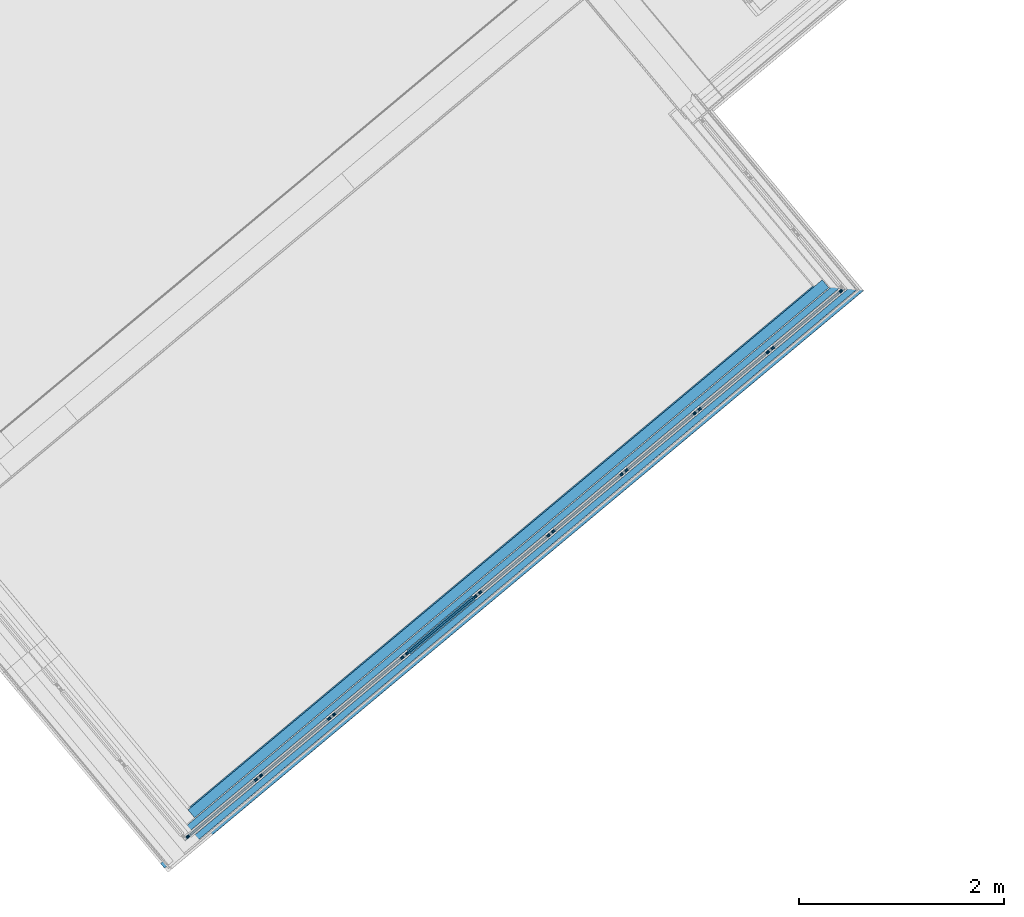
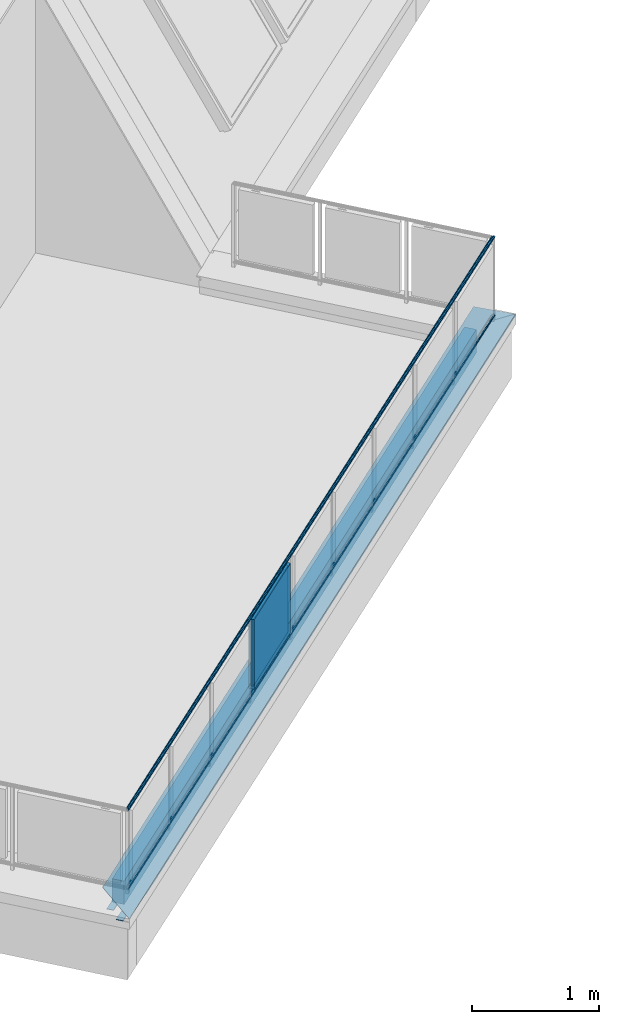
# One storey, part 17 of 58: 8 building element parts, 2 elements without a shape of their own.
"""IFC4 building model written with IfcOpenShell, lengths in metres."""

from ifc_helpers import new_model, entity, si_unit, converted_unit, derived_unit, direction, frame, origin_with_axes, place, context, subcontext, project, spatial, polygons, material, type_object, element, aggregate, save


model = new_model("IFC4")

# Units and contexts
model_context = context("Model", 3, precision=1e-05, world=origin_with_axes(), true_north=direction((0.0, 1.0)))
body_context = subcontext(model_context, "Body", "Model", "MODEL_VIEW")
ifc_project = project(units=[si_unit("LENGTHUNIT", "METRE"), si_unit("AREAUNIT", "SQUARE_METRE"), si_unit("VOLUMEUNIT", "CUBIC_METRE"), converted_unit("PLANEANGLEUNIT", "DEGREE", entity("IfcPlaneAngleMeasure", 0.0174532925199), si_unit("PLANEANGLEUNIT", "RADIAN"), dimensions=[0, 0, 0, 0, 0, 0, 0]), converted_unit("TIMEUNIT", "Year", entity("IfcTimeMeasure", 31556926.0), si_unit("TIMEUNIT", "SECOND"), dimensions=[0, 0, 1, 0, 0, 0, 0]), si_unit("MASSUNIT", "GRAM", prefix="KILO"), si_unit("THERMODYNAMICTEMPERATUREUNIT", "DEGREE_CELSIUS"), si_unit("LUMINOUSINTENSITYUNIT", "LUMEN"), si_unit("ENERGYUNIT", "JOULE", prefix="MEGA"), derived_unit("THERMALCONDUCTANCEUNIT", [(si_unit("POWERUNIT", "WATT"), 1), (si_unit("LENGTHUNIT", "METRE"), -1), (si_unit("THERMODYNAMICTEMPERATUREUNIT", "KELVIN"), -1)]), derived_unit("SPECIFICHEATCAPACITYUNIT", [(si_unit("ENERGYUNIT", "JOULE"), 1), (si_unit("MASSUNIT", "GRAM", prefix="KILO"), -1), (si_unit("THERMODYNAMICTEMPERATUREUNIT", "KELVIN"), -1)]), derived_unit("MASSDENSITYUNIT", [(si_unit("MASSUNIT", "GRAM", prefix="KILO"), 1), (si_unit("VOLUMEUNIT", "CUBIC_METRE"), -1)])], contexts=[model_context])

# Site, building, storey
site_placement = place(None, frame((-0.00153261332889, -0.00661245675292, 0.0), z_axis=(0.0, 0.0, 1.0), x_axis=(1.0, 0.0, 0.0)))
site = spatial("IfcSite", under=ifc_project, at=site_placement, Name="Site", CompositionType="ELEMENT")
building_placement = place(site_placement, origin_with_axes())
building = spatial("IfcBuilding", under=site, at=building_placement, Name="Building", CompositionType="ELEMENT")
storey_placement = place(building_placement, frame((0.0, 0.0, 5.7), z_axis=(0.0, 0.0, 1.0), x_axis=(1.0, 0.0, 0.0)))
storey = spatial("IfcBuildingStorey", under=building, at=storey_placement, Name="DG1", CompositionType="ELEMENT", Elevation=5.7)

# Wall, building element parts
wall_type = type_object("IfcWallType", Name="Bauteil - Attika Balkon 356 x 610", PredefinedType="NOTDEFINED")
wall_placement = place(storey_placement, frame((0.456856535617, 6.75344693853, -0.2), z_axis=(0.0, 0.0, 1.0), x_axis=(0.767288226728, 0.641302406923, 0.0)))
wall = element("IfcWall", 1, at=wall_placement, inside=storey, type_object=wall_type, Name="Wand-003", PredefinedType="NOTDEFINED")
ifc_material_1 = material(Name="Holzwerkstoff")
building_element_part_1_placement = place(wall_placement, origin_with_axes())
building_element_part_1 = element("IfcBuildingElementPart", 2, at=building_element_part_1_placement, material=ifc_material_1, Name="Holzwerkstoff", PredefinedType="NOTDEFINED", context=body_context, shape_type="Tessellation", body=[
    polygons([(0.330547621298, -0.189984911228, 0.586106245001), (0.330501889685, -0.13012497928, 0.584015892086), (8.50878371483, -0.130124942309, 0.584015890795), (8.56867877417, -0.189984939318, 0.586106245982), (0.330612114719, 0.11183400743, 0.584015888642), (0.330685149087, 0.111907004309, 0.586106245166), (0.330456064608, -0.0701429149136, 0.581921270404), (8.44876652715, -0.0701429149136, 0.581921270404), (8.50864209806, 0.111834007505, 0.584015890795), (8.56850199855, 0.111907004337, 0.586106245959), (0.330585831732, -0.23999998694, 0.587852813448), (8.61872305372, -0.239999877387, 0.587852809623), (0.330538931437, 0.111760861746, 0.581921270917), (0.330749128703, 0.111970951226, 0.587937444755), (0.330588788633, -0.239997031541, 0.587937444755), (0.112278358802, 0.112247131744, 0.595846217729), (8.61823774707, 0.112247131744, 0.595846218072), (8.61851704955, 0.111967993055, 0.587852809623), (8.44866006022, 0.111760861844, 0.581921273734), (8.3885498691, 0.111687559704, 0.579822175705), (8.26697794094, 0.111539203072, 0.575576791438), (0.3303172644, 0.111539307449, 0.575576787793), (0.330331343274, 0.11155337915, 0.57597974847), (0.330465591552, 0.111687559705, 0.57982217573), (0.330410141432, -0.0100326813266, 0.579822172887), (8.38862111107, -0.0100326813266, 0.579822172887), (-0.239385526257, -0.239276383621, 0.608570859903), (0.112118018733, -0.239720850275, 0.595846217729), (8.61844375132, -0.239720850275, 0.595846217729), (8.61799913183, -0.23927649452, 0.608570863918), (0.330326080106, 0.100000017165, 0.57597974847)], [[[1, 2, 3, 4]], [[5, 2, 1, 6]], [[2, 7, 8, 3]], [[9, 10, 4, 3]], [[11, 1, 4, 12]], [[7, 2, 5, 13]], [[14, 6, 1, 11, 15]], [[14, 16, 17, 18, 10, 9, 19, 20, 21, 22, 23, 24, 13, 5, 6]], [[7, 25, 26, 8]], [[8, 19, 9, 3]], [[10, 18, 12, 4]], [[27, 28, 15, 11, 12, 29, 30]], [[25, 7, 13, 24]], [[28, 16, 14, 15]], [[16, 27, 30, 17]], [[18, 17, 29, 12]], [[8, 26, 20, 19]], [[26, 21, 20]], [[31, 22, 21, 26, 25]], [[22, 31, 23]], [[25, 24, 23, 31]], [[16, 28, 27]], [[30, 29, 17]]], closed=True),
])
ifc_material_2 = material(Name="EPS 1")
building_element_part_2_placement = place(wall_placement, origin_with_axes())
building_element_part_2 = element("IfcBuildingElementPart", 3, at=building_element_part_2_placement, material=ifc_material_2, Name="EPS 1", PredefinedType="NOTDEFINED", context=body_context, shape_type="Tessellation", body=[
    polygons([(8.3785825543, -2.39906761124e-10, 0.519273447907), (8.3785825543, -2.39906761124e-10, 0.560000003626), (0.300000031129, -2.39911202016e-10, 0.560000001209), (0.300000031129, -2.39907649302e-10, 0.519273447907), (0.300000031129, -2.39907649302e-10, 0.519224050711), (0.300000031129, -2.39907649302e-10, 0.511410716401), (0.300000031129, -2.39907649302e-10, 0.51136132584), (0.300000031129, -2.39907649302e-10, 0.509099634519), (0.300000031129, -2.39907649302e-10, 0.509050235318), (0.300000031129, -2.39907649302e-10, 0.506731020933), (0.300000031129, -2.39907649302e-10, 0.499999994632), (0.300000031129, -2.39907649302e-10, 0.498915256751), (0.300000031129, -2.39907649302e-10, 0.498822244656), (0.300000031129, -2.39907649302e-10, 0.496604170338), (0.300000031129, -2.39907649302e-10, 0.491006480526), (0.300000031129, -2.39907649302e-10, 0.488695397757), (0.300000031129, -2.39909425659e-10, 0.335), (8.3785825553, -2.3990853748e-10, 0.334999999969), (8.3785825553, -2.3990853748e-10, 0.496604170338), (8.3785825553, -2.3990853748e-10, 0.498915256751), (8.3785825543, -2.40488517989e-10, 0.499999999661), (8.3785825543, -2.39906761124e-10, 0.506731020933), (8.3785825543, -2.39906761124e-10, 0.509099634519), (8.3785825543, -2.39906761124e-10, 0.511410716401), (8.37852402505, 0.0999999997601, 0.560000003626), (8.37852402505, 0.0999999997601, 0.519273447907), (0.300045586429, 0.0999999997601, 0.560000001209), (0.300045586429, 0.0999999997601, 0.519273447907), (0.300045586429, 0.0999999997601, 0.519224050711), (0.300045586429, 0.0999999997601, 0.511410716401), (0.300045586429, 0.0999999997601, 0.51136132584), (0.300045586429, 0.0999999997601, 0.509099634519), (0.300045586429, 0.0999999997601, 0.509050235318), (0.300045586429, 0.0999999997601, 0.506731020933), (0.300045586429, 0.0999999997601, 0.499999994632), (0.300045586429, 0.0999999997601, 0.498915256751), (0.300045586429, 0.0999999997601, 0.498822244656), (0.300045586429, 0.0999999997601, 0.496604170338), (0.300045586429, 0.0999999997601, 0.491006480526), (0.300045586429, 0.0999999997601, 0.488695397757), (0.300045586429, 0.0999999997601, 0.335), (8.37852402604, 0.0999999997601, 0.334999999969), (8.37852402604, 0.0999999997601, 0.496604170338), (8.37852402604, 0.0999999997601, 0.498915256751), (8.37852402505, 0.0999999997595, 0.499999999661), (8.37852402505, 0.0999999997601, 0.506731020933), (8.37852402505, 0.0999999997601, 0.509099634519), (8.37852402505, 0.0999999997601, 0.511410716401)], [[[1, 2, 3, 4, 5, 6, 7, 8, 9, 10, 11, 12, 13, 14, 15, 16, 17, 18, 19, 20, 21, 22, 23, 24]], [[25, 2, 1, 26]], [[2, 25, 27, 3]], [[4, 3, 27, 28]], [[4, 28, 29, 5]], [[5, 29, 30, 6]], [[6, 30, 31, 7]], [[7, 31, 32, 8]], [[8, 32, 33, 9]], [[9, 33, 34, 10]], [[10, 34, 35, 11]], [[11, 35, 36, 12]], [[12, 36, 37, 13]], [[13, 37, 38, 14]], [[14, 38, 39, 15]], [[15, 39, 40, 16]], [[16, 40, 41, 17]], [[42, 18, 17, 41]], [[43, 19, 18, 42]], [[44, 20, 19, 43]], [[45, 21, 20, 44]], [[46, 22, 21, 45]], [[47, 23, 22, 46]], [[48, 24, 23, 47]], [[26, 1, 24, 48]], [[25, 26, 48, 47, 46, 45, 44, 43, 42, 41, 40, 39, 38, 37, 36, 35, 34, 33, 32, 31, 30, 29, 28, 27]]], closed=True),
])
ifc_material_3 = material(Name="Vollholz")
building_element_part_3_placement = place(wall_placement, origin_with_axes())
building_element_part_3 = element("IfcBuildingElementPart", 4, at=building_element_part_3_placement, material=ifc_material_3, Name="Vollholz", PredefinedType="NOTDEFINED", context=body_context, shape_type="Tessellation", body=[
    polygons([(8.44876652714, -0.0701429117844, 0.57982217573), (8.44876652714, -0.0701429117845, 0.581921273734), (-0.130156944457, -0.0701429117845, 0.581921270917), (-0.130156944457, -0.0701429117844, 0.57982217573), (-0.130156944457, -0.0701429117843, 0.575979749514), (0.0999680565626, -0.0701429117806, 0.575979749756), (0.111507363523, -0.0701429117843, 0.575576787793), (0.160078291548, -0.0701429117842, 0.573880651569), (0.1600311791, -0.0701429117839, 0.567947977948), (0.159968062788, -0.0701429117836, 0.560000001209), (8.44876652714, -0.0701429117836, 0.560000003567), (8.44876652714, -0.0701429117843, 0.575576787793), (8.44873134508, -0.0100326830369, 0.57982217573), (-0.130129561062, -0.0100326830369, 0.57982217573), (-0.130129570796, -0.0100540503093, 0.575979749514), (0.0999954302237, -0.0100540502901, 0.575979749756), (0.111534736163, -0.0100562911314, 0.575576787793), (0.160105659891, -0.0100657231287, 0.573880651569), (0.160058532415, -0.0100987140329, 0.567947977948), (0.159995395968, -0.0101429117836, 0.560000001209), (8.44873140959, -0.0101429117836, 0.560000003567), (8.44873135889, -0.0100562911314, 0.575576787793)], [[[1, 2, 3, 4, 5, 6, 7, 8, 9, 10, 11, 12]], [[13, 2, 1]], [[2, 13, 14, 3]], [[4, 3, 14]], [[4, 14, 15, 5]], [[5, 15, 16, 6]], [[17, 7, 6, 16]], [[7, 17, 18, 8]], [[8, 18, 19, 9]], [[9, 19, 20, 10]], [[21, 11, 10, 20]], [[22, 12, 11, 21]], [[13, 1, 12, 22]], [[13, 22, 21, 20, 19, 18, 17, 16, 15, 14]]], closed=True),
])
building_element_part_4_placement = place(wall_placement, origin_with_axes())
building_element_part_4 = element("IfcBuildingElementPart", 5, at=building_element_part_4_placement, material=ifc_material_3, Name="Vollholz", PredefinedType="NOTDEFINED", context=body_context, shape_type="Tessellation", body=[
    polygons([(8.56865487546, -0.130124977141, 0.584015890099), (8.5686899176, -0.189996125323, 0.584015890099), (8.56870116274, -0.190007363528, 0.581921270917), (8.56866611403, -0.130124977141, 0.581921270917), (8.56867877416, -0.189984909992, 0.586106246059), (-0.190071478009, -0.18998490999, 0.586106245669), (-0.130211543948, -0.189996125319, 0.584015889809), (-0.130211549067, -0.190007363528, 0.581921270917), (-0.190093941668, -0.190007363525, 0.581921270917), (-0.240237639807, -0.190007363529, 0.581921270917), (-0.241586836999, -0.190007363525, 0.581921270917), (-0.241586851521, -0.190039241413, 0.575979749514), (-0.240237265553, -0.190039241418, 0.575979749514), (-0.190125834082, -0.190039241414, 0.575979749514), (-0.130211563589, -0.190039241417, 0.575979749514), (-0.130211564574, -0.190041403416, 0.575576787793), (-0.13021156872, -0.190050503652, 0.573880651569), (-0.13021158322, -0.19008233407, 0.567947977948), (-0.130211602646, -0.190124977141, 0.560000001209), (8.568818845, -0.190124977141, 0.560000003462), (8.56873522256, -0.190041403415, 0.575576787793), (8.56871243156, -0.190018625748, 0.57982217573), (8.56867737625, -0.130124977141, 0.57982217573), (8.56870015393, -0.130124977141, 0.575576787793), (8.56878372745, -0.130124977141, 0.560000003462), (-0.130184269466, -0.130124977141, 0.560000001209), (-0.130184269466, -0.130124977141, 0.567947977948), (-0.130184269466, -0.130124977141, 0.573880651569), (-0.130184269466, -0.130124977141, 0.575576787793), (-0.130184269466, -0.130124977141, 0.575979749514), (-0.190098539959, -0.130124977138, 0.575979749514), (-0.24020997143, -0.130124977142, 0.575979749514), (-0.241559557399, -0.130124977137, 0.575979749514), (-0.241559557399, -0.130124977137, 0.581921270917), (-0.240210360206, -0.130124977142, 0.581921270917), (-0.190066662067, -0.130124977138, 0.581921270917), (-0.130184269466, -0.130124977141, 0.581921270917), (-0.130184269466, -0.130124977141, 0.584015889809)], [[[1, 2, 3, 4]], [[5, 2, 1]], [[2, 5, 6, 7, 8, 9, 10, 11, 12, 13, 14, 15, 16, 17, 18, 19, 20, 21, 22, 3]], [[4, 3, 22, 23]], [[1, 4, 23, 24, 25, 26, 27, 28, 29, 30, 31, 32, 33, 34, 35, 36, 37, 38]], [[5, 1, 38, 6]], [[38, 7, 6]], [[7, 38, 37, 8]], [[9, 8, 37, 36]], [[9, 36, 35, 10]], [[10, 35, 34, 11]], [[11, 34, 33, 12]], [[32, 13, 12, 33]], [[31, 14, 13, 32]], [[15, 14, 31, 30]], [[16, 15, 30, 29]], [[16, 29, 28, 17]], [[17, 28, 27, 18]], [[18, 27, 26, 19]], [[25, 20, 19, 26]], [[24, 21, 20, 25]], [[23, 22, 21, 24]]], closed=True),
])
aggregate(wall, [building_element_part_1, building_element_part_2, building_element_part_3, building_element_part_4])

# Railing, building element parts
railing_type = type_object("IfcRailingType", Name="Geländerart", PredefinedType="NOTDEFINED")
railing_placement = place(storey_placement, frame((-1.26757951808, 10.1438545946, 0.38), z_axis=(0.0, 0.0, 1.0), x_axis=(1.0, 0.0, 0.0)))
railing = element("IfcRailing", 6, at=railing_placement, inside=storey, type_object=railing_type, Name="Geländer - 001", PredefinedType="NOTDEFINED")
ifc_material_4 = material(Name="Aluminium")
building_element_part_5_placement = place(railing_placement, origin_with_axes())
building_element_part_5 = element("IfcBuildingElementPart", 7, at=building_element_part_5_placement, material=ifc_material_4, Name="Aluminium", PredefinedType="NOTDEFINED", context=body_context, shape_type="Tessellation", body=[
    polygons([(1.86715214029, -3.38188828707, 0.825), (1.86712331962, -3.38220933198, 0.827604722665), (8.27406230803, 1.97118410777, 0.827604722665), (8.27374117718, 1.97121274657, 0.825), (1.86712331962, -3.38220933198, 0.822395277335), (1.86703773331, -3.38316271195, 0.81986969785), (1.86689798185, -3.384719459, 0.8175), (1.86670831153, -3.38683227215, 0.815358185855), (1.86647448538, -3.38943695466, 0.813509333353), (1.86620360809, -3.39245436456, 0.812009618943), (1.86590391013, -3.39579281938, 0.810904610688), (1.86558449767, -3.39935088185, 0.810227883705), (1.86525507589, -3.40302044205, 0.81), (1.86492565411, -3.40669000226, 0.810227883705), (1.86460624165, -3.41024806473, 0.810904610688), (1.86430654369, -3.41358651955, 0.812009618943), (1.8640356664, -3.41660392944, 0.813509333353), (1.86380184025, -3.41920861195, 0.815358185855), (1.86361216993, -3.42132142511, 0.8175), (1.86347241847, -3.42287817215, 0.81986969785), (1.86338683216, -3.42383155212, 0.822395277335), (1.86335801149, -3.42415259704, 0.825), (1.86338683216, -3.42383155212, 0.827604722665), (1.86347241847, -3.42287817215, 0.83013030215), (1.86361216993, -3.42132142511, 0.8325), (1.86380184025, -3.41920861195, 0.834641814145), (1.8640356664, -3.41660392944, 0.836490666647), (1.86430654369, -3.41358651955, 0.837990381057), (1.86460624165, -3.41024806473, 0.839095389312), (1.86492565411, -3.40669000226, 0.839772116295), (1.86525507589, -3.40302044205, 0.84), (1.86558449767, -3.39935088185, 0.839772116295), (1.86590391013, -3.39579281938, 0.839095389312), (1.86620360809, -3.39245436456, 0.837990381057), (1.86647448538, -3.38943695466, 0.836490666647), (1.86670831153, -3.38683227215, 0.834641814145), (1.86689798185, -3.384719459, 0.8325), (1.86703773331, -3.38316271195, 0.83013030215), (8.27501594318, 1.97109906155, 0.83013030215), (8.27657310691, 1.970960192, 0.8325), (8.27868648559, 1.9707717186, 0.834641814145), (8.28129186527, 1.97053936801, 0.836490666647), (8.28431008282, 1.9702702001, 0.837990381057), (8.28764943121, 1.96997239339, 0.839095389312), (8.29120844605, 1.96965499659, 0.839772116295), (8.29487898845, 1.96932765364, 0.84), (8.29854953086, 1.96900031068, 0.839772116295), (8.30210854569, 1.96868291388, 0.839095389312), (8.30544789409, 1.96838510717, 0.837990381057), (8.30846611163, 1.96811593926, 0.836490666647), (8.31107149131, 1.96788358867, 0.834641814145), (8.31318486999, 1.96769511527, 0.8325), (8.31474203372, 1.96755624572, 0.83013030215), (8.31569566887, 1.9674711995, 0.827604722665), (8.31601679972, 1.96744256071, 0.825), (8.31569566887, 1.9674711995, 0.822395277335), (8.31474203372, 1.96755624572, 0.81986969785), (8.31318486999, 1.96769511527, 0.8175), (8.31107149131, 1.96788358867, 0.815358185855), (8.30846611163, 1.96811593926, 0.813509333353), (8.30544789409, 1.96838510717, 0.812009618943), (8.30210854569, 1.96868291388, 0.810904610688), (8.29854953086, 1.96900031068, 0.810227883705), (8.29487898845, 1.96932765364, 0.81), (8.29120844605, 1.96965499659, 0.810227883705), (8.28764943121, 1.96997239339, 0.810904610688), (8.28431008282, 1.9702702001, 0.812009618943), (8.28129186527, 1.97053936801, 0.813509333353), (8.27868648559, 1.9707717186, 0.815358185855), (8.27657310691, 1.970960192, 0.8175), (8.27501594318, 1.97109906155, 0.81986969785), (8.27406230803, 1.97118410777, 0.822395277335)], [[[1, 2, 3, 4]], [[1, 5, 6, 7, 8, 9, 10, 11, 12, 13, 14, 15, 16, 17, 18, 19, 20, 21, 22, 23, 24, 25, 26, 27, 28, 29, 30, 31, 32, 33, 34, 35, 36, 37, 38, 2]], [[2, 38, 39, 3]], [[4, 3, 39, 40, 41, 42, 43, 44, 45, 46, 47, 48, 49, 50, 51, 52, 53, 54, 55, 56, 57, 58, 59, 60, 61, 62, 63, 64, 65, 66, 67, 68, 69, 70, 71, 72]], [[5, 1, 4, 72]], [[6, 5, 72, 71]], [[7, 6, 71, 70]], [[8, 7, 70, 69]], [[9, 8, 69, 68]], [[10, 9, 68, 67]], [[11, 10, 67, 66]], [[12, 11, 66, 65]], [[13, 12, 65, 64]], [[14, 13, 64, 63]], [[15, 14, 63, 62]], [[16, 15, 62, 61]], [[17, 16, 61, 60]], [[18, 17, 60, 59]], [[19, 18, 59, 58]], [[20, 19, 58, 57]], [[21, 20, 57, 56]], [[22, 21, 56, 55]], [[23, 22, 55, 54]], [[24, 23, 54, 53]], [[25, 24, 53, 52]], [[26, 25, 52, 51]], [[27, 26, 51, 50]], [[28, 27, 50, 49]], [[29, 28, 49, 48]], [[30, 29, 48, 47]], [[31, 30, 47, 46]], [[32, 31, 46, 45]], [[33, 32, 45, 44]], [[34, 33, 44, 43]], [[35, 34, 43, 42]], [[36, 35, 42, 41]], [[37, 36, 41, 40]], [[38, 37, 40, 39]]], closed=True),
])
building_element_part_6_placement = place(railing_placement, origin_with_axes())
building_element_part_6 = element("IfcBuildingElementPart", 8, at=building_element_part_6_placement, material=ifc_material_4, Name="Aluminium", PredefinedType="NOTDEFINED", context=body_context, shape_type="Tessellation", body=[
    polygons([(1.86715214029, -3.38188828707, 0.07), (1.86712331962, -3.38220933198, 0.072604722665), (8.27406230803, 1.97118410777, 0.072604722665), (8.27374117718, 1.97121274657, 0.07), (1.86712331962, -3.38220933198, 0.067395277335), (1.86703773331, -3.38316271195, 0.0648696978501), (1.86689798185, -3.384719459, 0.0625), (1.86670831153, -3.38683227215, 0.0603581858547), (1.86647448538, -3.38943695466, 0.0585093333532), (1.86620360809, -3.39245436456, 0.0570096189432), (1.86590391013, -3.39579281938, 0.0559046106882), (1.86558449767, -3.39935088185, 0.0552278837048), (1.86525507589, -3.40302044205, 0.055), (1.86492565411, -3.40669000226, 0.0552278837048), (1.86460624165, -3.41024806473, 0.0559046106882), (1.86430654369, -3.41358651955, 0.0570096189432), (1.8640356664, -3.41660392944, 0.0585093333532), (1.86380184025, -3.41920861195, 0.0603581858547), (1.86361216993, -3.42132142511, 0.0625), (1.86347241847, -3.42287817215, 0.0648696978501), (1.86338683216, -3.42383155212, 0.067395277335), (1.86335801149, -3.42415259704, 0.07), (1.86338683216, -3.42383155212, 0.072604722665), (1.86347241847, -3.42287817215, 0.0751303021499), (1.86361216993, -3.42132142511, 0.0775), (1.86380184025, -3.41920861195, 0.0796418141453), (1.8640356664, -3.41660392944, 0.0814906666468), (1.86430654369, -3.41358651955, 0.0829903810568), (1.86460624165, -3.41024806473, 0.0840953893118), (1.86492565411, -3.40669000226, 0.0847721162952), (1.86525507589, -3.40302044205, 0.085), (1.86558449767, -3.39935088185, 0.0847721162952), (1.86590391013, -3.39579281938, 0.0840953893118), (1.86620360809, -3.39245436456, 0.0829903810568), (1.86647448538, -3.38943695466, 0.0814906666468), (1.86670831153, -3.38683227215, 0.0796418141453), (1.86689798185, -3.384719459, 0.0775), (1.86703773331, -3.38316271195, 0.0751303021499), (8.27501594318, 1.97109906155, 0.0751303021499), (8.27657310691, 1.970960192, 0.0775), (8.27868648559, 1.9707717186, 0.0796418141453), (8.28129186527, 1.97053936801, 0.0814906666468), (8.28431008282, 1.9702702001, 0.0829903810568), (8.28764943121, 1.96997239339, 0.0840953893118), (8.29120844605, 1.96965499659, 0.0847721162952), (8.29487898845, 1.96932765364, 0.085), (8.29854953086, 1.96900031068, 0.0847721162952), (8.30210854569, 1.96868291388, 0.0840953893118), (8.30544789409, 1.96838510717, 0.0829903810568), (8.30846611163, 1.96811593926, 0.0814906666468), (8.31107149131, 1.96788358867, 0.0796418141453), (8.31318486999, 1.96769511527, 0.0775), (8.31474203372, 1.96755624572, 0.0751303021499), (8.31569566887, 1.9674711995, 0.072604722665), (8.31601679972, 1.96744256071, 0.07), (8.31569566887, 1.9674711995, 0.067395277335), (8.31474203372, 1.96755624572, 0.0648696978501), (8.31318486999, 1.96769511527, 0.0625), (8.31107149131, 1.96788358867, 0.0603581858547), (8.30846611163, 1.96811593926, 0.0585093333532), (8.30544789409, 1.96838510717, 0.0570096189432), (8.30210854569, 1.96868291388, 0.0559046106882), (8.29854953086, 1.96900031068, 0.0552278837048), (8.29487898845, 1.96932765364, 0.055), (8.29120844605, 1.96965499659, 0.0552278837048), (8.28764943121, 1.96997239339, 0.0559046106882), (8.28431008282, 1.9702702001, 0.0570096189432), (8.28129186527, 1.97053936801, 0.0585093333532), (8.27868648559, 1.9707717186, 0.0603581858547), (8.27657310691, 1.970960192, 0.0625), (8.27501594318, 1.97109906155, 0.0648696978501), (8.27406230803, 1.97118410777, 0.067395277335)], [[[1, 2, 3, 4]], [[1, 5, 6, 7, 8, 9, 10, 11, 12, 13, 14, 15, 16, 17, 18, 19, 20, 21, 22, 23, 24, 25, 26, 27, 28, 29, 30, 31, 32, 33, 34, 35, 36, 37, 38, 2]], [[2, 38, 39, 3]], [[4, 3, 39, 40, 41, 42, 43, 44, 45, 46, 47, 48, 49, 50, 51, 52, 53, 54, 55, 56, 57, 58, 59, 60, 61, 62, 63, 64, 65, 66, 67, 68, 69, 70, 71, 72]], [[5, 1, 4, 72]], [[6, 5, 72, 71]], [[7, 6, 71, 70]], [[8, 7, 70, 69]], [[9, 8, 69, 68]], [[10, 9, 68, 67]], [[11, 10, 67, 66]], [[12, 11, 66, 65]], [[13, 12, 65, 64]], [[14, 13, 64, 63]], [[15, 14, 63, 62]], [[16, 15, 62, 61]], [[17, 16, 61, 60]], [[18, 17, 60, 59]], [[19, 18, 59, 58]], [[20, 19, 58, 57]], [[21, 20, 57, 56]], [[22, 21, 56, 55]], [[23, 22, 55, 54]], [[24, 23, 54, 53]], [[25, 24, 53, 52]], [[26, 25, 52, 51]], [[27, 26, 51, 50]], [[28, 27, 50, 49]], [[29, 28, 49, 48]], [[30, 29, 48, 47]], [[31, 30, 47, 46]], [[32, 31, 46, 45]], [[33, 32, 45, 44]], [[34, 33, 44, 43]], [[35, 34, 43, 42]], [[36, 35, 42, 41]], [[37, 36, 41, 40]], [[38, 37, 40, 39]]], closed=True),
])
ifc_material_5 = material(Name="Profilit")
building_element_part_7_placement = place(railing_placement, origin_with_axes())
building_element_part_7 = element("IfcBuildingElementPart", 9, at=building_element_part_7_placement, material=ifc_material_5, Name="Profilit", PredefinedType="NOTDEFINED", context=body_context, shape_type="Tessellation", body=[
    polygons([(4.66657409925, -1.04931393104, 0.135), (4.05193078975, -1.56288639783, 0.135), (4.05193078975, -1.56288639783, 0.775), (4.66657409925, -1.04931393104, 0.775), (4.06475465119, -1.57823398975, 0.135), (4.67939796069, -1.06466152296, 0.135), (4.06475465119, -1.57823398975, 0.775), (4.67939796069, -1.06466152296, 0.775)], [[[1, 2, 3, 4]], [[5, 2, 1, 6]], [[7, 3, 2, 5]], [[4, 3, 7, 8]], [[1, 4, 8, 6]], [[7, 5, 6, 8]]], closed=True),
])
building_element_part_8_placement = place(railing_placement, origin_with_axes())
building_element_part_8 = element("IfcBuildingElementPart", 10, at=building_element_part_8_placement, material=ifc_material_4, Name="Aluminium", PredefinedType="NOTDEFINED", context=body_context, shape_type="Tessellation", body=[
    polygons([(4.12196700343, -1.51414033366, 0.12), (4.17568357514, -1.4692568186, 0.12), (4.17568357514, -1.4692568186, 0.095), (4.12196700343, -1.51414033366, 0.095), (4.12517296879, -1.51797723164, 0.12), (4.1788895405, -1.47309371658, 0.12), (4.1788895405, -1.47309371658, 0.095), (4.12517296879, -1.51797723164, 0.095)], [[[1, 2, 3, 4]], [[5, 6, 2, 1]], [[2, 6, 7, 3]], [[4, 3, 7, 8]], [[1, 4, 8, 5]], [[8, 7, 6, 5]]], closed=True),
    polygons([(4.60615578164, -1.10957068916, 0.79), (4.55243920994, -1.15445420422, 0.79), (4.55243920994, -1.15445420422, 0.795), (4.60615578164, -1.10957068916, 0.795), (4.60936174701, -1.11340758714, 0.79), (4.5556451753, -1.1582911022, 0.79), (4.5556451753, -1.1582911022, 0.795), (4.60936174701, -1.11340758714, 0.795)], [[[1, 2, 3, 4]], [[5, 6, 2, 1]], [[2, 6, 7, 3]], [[4, 3, 7, 8]], [[1, 4, 8, 5]], [[8, 7, 6, 5]]], closed=True),
    polygons([(4.06286185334, -1.59936257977, 0.12), (4.03080219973, -1.56099359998, 0.12), (4.6684668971, -1.02818534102, 0.12), (4.70052655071, -1.06655432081, 0.12), (4.07820944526, -1.58653871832, 0.14), (4.06859154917, -1.57502802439, 0.14), (4.06475465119, -1.57823398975, 0.135), (4.05193078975, -1.56288639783, 0.135), (4.05576768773, -1.55968043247, 0.14), (4.04614979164, -1.54816973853, 0.14), (4.65311930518, -1.04100920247, 0.14), (4.65311930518, -1.04100920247, 0.77), (4.04614979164, -1.54816973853, 0.77), (4.04614979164, -1.54816973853, 0.14), (4.03080219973, -1.56099359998, 0.12), (4.03080219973, -1.56099359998, 0.79), (4.6684668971, -1.02818534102, 0.79), (4.70052655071, -1.06655432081, 0.79), (4.06286185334, -1.59936257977, 0.79), (4.06286185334, -1.59936257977, 0.12), (4.07820944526, -1.58653871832, 0.14), (4.07820944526, -1.58653871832, 0.77), (4.6851789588, -1.07937818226, 0.77), (4.6851789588, -1.07937818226, 0.14), (4.67556106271, -1.06786748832, 0.14), (4.67556106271, -1.06786748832, 0.77), (4.06859154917, -1.57502802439, 0.77), (4.06859154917, -1.57502802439, 0.14), (4.06475465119, -1.57823398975, 0.135), (4.06475465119, -1.57823398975, 0.775), (4.67939796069, -1.06466152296, 0.775), (4.67939796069, -1.06466152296, 0.135), (4.66657409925, -1.04931393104, 0.135), (4.66657409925, -1.04931393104, 0.775), (4.05193078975, -1.56288639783, 0.775), (4.05193078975, -1.56288639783, 0.135), (4.05576768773, -1.55968043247, 0.14), (4.05576768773, -1.55968043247, 0.77), (4.66273720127, -1.0525198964, 0.77), (4.66273720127, -1.0525198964, 0.14)], [[[1, 2, 3, 4]], [[1, 5, 6, 7, 8, 9, 10, 2]], [[2, 10, 11, 12, 13, 14, 15, 16, 17, 3]], [[4, 3, 17, 18]], [[5, 1, 4, 18, 19, 20, 21, 22, 23, 24]], [[6, 5, 24, 25]], [[7, 6, 25, 26, 27, 28, 29, 30, 31, 32]], [[8, 7, 32, 33]], [[9, 8, 33, 34, 35, 36, 37, 38, 39, 40]], [[10, 9, 40, 11]], [[11, 40, 39, 12]], [[12, 39, 38, 13]], [[13, 38, 37, 14]], [[20, 15, 14, 37, 36, 29, 28, 21]], [[19, 16, 15, 20]], [[18, 17, 16, 19]], [[27, 22, 21, 28]], [[26, 23, 22, 27]], [[25, 24, 23, 26]], [[35, 30, 29, 36]], [[34, 31, 30, 35]], [[33, 32, 31, 34]]], closed=True),
])
aggregate(railing, [building_element_part_5, building_element_part_6, building_element_part_7, building_element_part_8])

save(model, "model.ifc")
